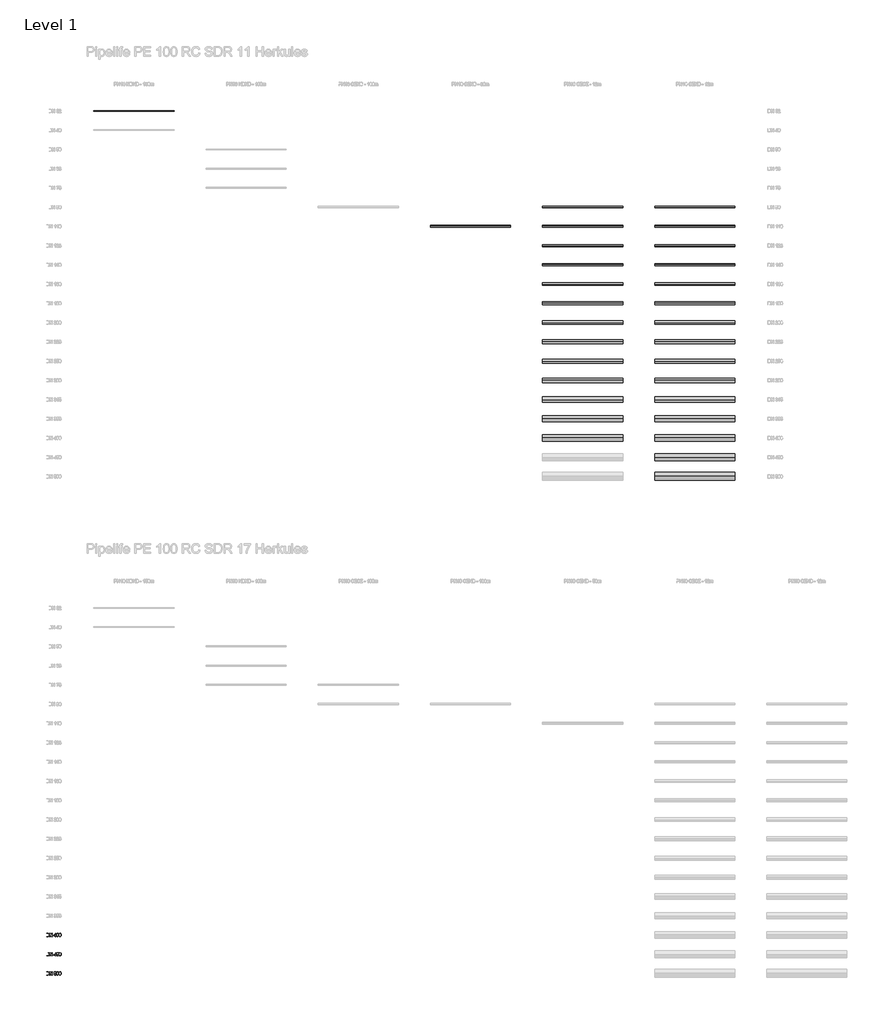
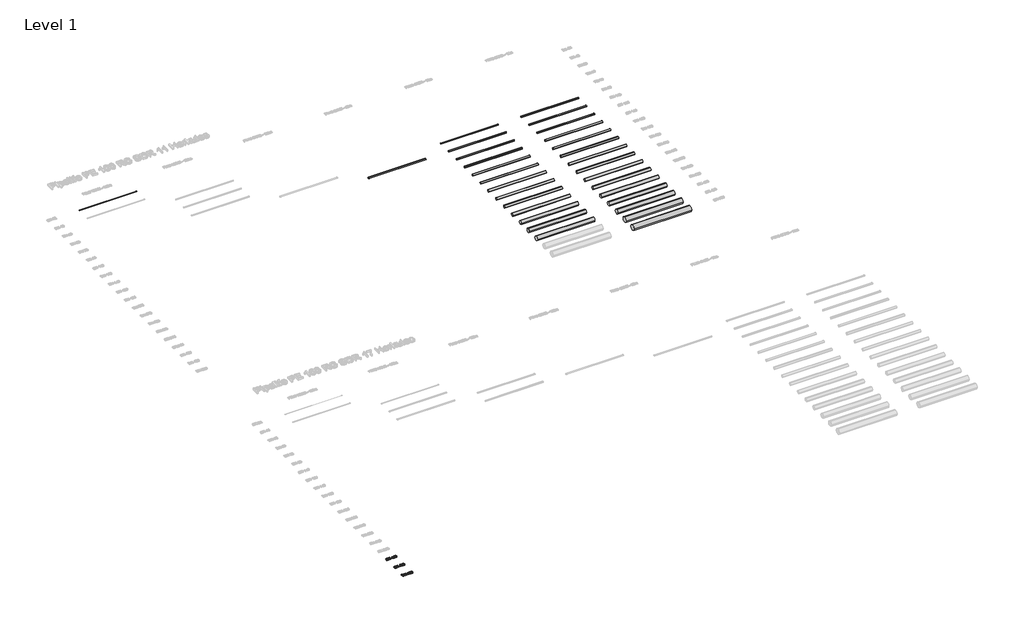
# One storey, part 2 of 17: 30 pipe segments, 3 proxies.
"""IFC4 building model written with IfcOpenShell, lengths in millimetres."""

from ifc_helpers import new_model, si_unit, point, frame, frame_2d, origin, origin_with_axes, place, context, project, spatial, polyline, circle_curve, trimmed, segment, composite_curve, outline, extrude, element, save

model = new_model("IFC4")

# Units and contexts
model_context = context("Model", 3, world=origin())
ifc_project = project(units=[si_unit("LENGTHUNIT", "METRE", prefix="MILLI")], contexts=[model_context])

# Site, building, storey
site = spatial("IfcSite", under=ifc_project)
building = spatial("IfcBuilding", under=site)
storey = spatial("IfcBuildingStorey", under=building, Name="Level 1", Elevation=0.0)

# Proxies
placement = place(None, origin())
element("IfcBuildingElementProxy", 1, Name="200mm Arial", ObjectType="200mm Arial", at=placement, inside=storey, context=model_context, shape_type="SweptSolid", body=[
    extrude(outline(polyline([(-19491.3116028, -50913.949573), (-19491.3116028, -50713.0369527), (-19422.0026349, -50713.0369527), (-19386.1464031, -50715.9309577), (-19370.1312736, -50721.5105013), (-19356.6177416, -50730.302881), (-19342.724065, -50745.606772), (-19332.8280393, -50764.6385338), (-19326.9051392, -50787.0302846), (-19324.9308391, -50812.4141423), (-19330.2773908, -50852.9547382), (-19344.0116519, -50882.2136195), (-19362.3567008, -50900.436041), (-19386.3671323, -50910.5160077), (-19418.6671715, -50913.949573), (-19491.3116028, -50913.949573)]), holes=[polyline([(-19466.1975253, -50888.8354954), (-19421.7573803, -50888.8354954), (-19389.4328156, -50885.2057264), (-19370.7934612, -50874.9540815), (-19362.0685265, -50864.0831685), (-19355.5140957, -50850.0116822), (-19351.4122114, -50832.6783089), (-19350.0449167, -50812.0217348), (-19352.7243239, -50784.6513144), (-19360.7625455, -50764.4423301), (-19372.6390025, -50750.5609162), (-19386.8331162, -50742.1732067), (-19422.4440933, -50738.1510302), (-19466.1975253, -50738.1510302), (-19466.1975253, -50888.8354954)])]), origin_with_axes(), (0.0, 0.0, 1.0), 50.0),
    extrude(outline(polyline([(-19290.3989825, -50913.949573), (-19290.3989825, -50713.0369527), (-19263.5190714, -50713.0369527), (-19158.5500754, -50872.2072292), (-19158.5500754, -50713.0369527), (-19133.4359979, -50713.0369527), (-19133.4359979, -50913.949573), (-19160.315909, -50913.949573), (-19265.284905, -50754.7302454), (-19265.284905, -50913.949573), (-19290.3989825, -50913.949573)])), origin_with_axes(), (0.0, 0.0, 1.0), 50.0),
    extrude(outline(polyline([(-18938.801897, -50913.949573), (-18938.801897, -50866.8606776), (-19029.8404281, -50866.8606776), (-19029.8404281, -50841.7466), (-18932.5233776, -50716.1762123), (-18913.6878195, -50716.1762123), (-18913.6878195, -50841.7466), (-18888.5737419, -50841.7466), (-18888.5737419, -50866.8606776), (-18913.6878195, -50866.8606776), (-18913.6878195, -50913.949573), (-18938.801897, -50913.949573)]), holes=[polyline([(-18938.801897, -50841.7466), (-18938.801897, -50764.1480245), (-18998.9383405, -50841.7466), (-18938.801897, -50841.7466)])]), origin_with_axes(), (0.0, 0.0, 1.0), 50.0),
    extrude(outline(polyline([(-18866.5989241, -50815.1119436), (-18864.7533827, -50782.9529258), (-18859.2167587, -50757.3054194), (-18850.0442343, -50737.7770168), (-18837.2909918, -50723.9753106), (-18820.8650607, -50715.7715422), (-18800.6744705, -50713.0369527), (-18785.1989013, -50714.6556334), (-18771.3420128, -50719.5116758), (-18759.7537299, -50727.4150073), (-18751.0839776, -50738.1755557), (-18739.3117537, -50767.9004209), (-18734.750017, -50815.1119436), (-18736.5771642, -50847.0870203), (-18742.058606, -50872.6732131), (-18751.1759481, -50892.2200098), (-18763.9107965, -50906.0768983), (-18780.3735158, -50914.335849), (-18800.6744705, -50917.0888326), (-18826.7695667, -50912.3063667), (-18846.5861435, -50897.9589689), (-18855.341735, -50882.8298218), (-18861.5957289, -50863.9789353), (-18866.5989241, -50815.1119436)]), holes=[polyline([(-18841.4848465, -50815.0628927), (-18838.5417906, -50854.5672876), (-18829.7126227, -50877.4311536), (-18816.5669727, -50888.3388547), (-18800.6744705, -50891.9747551), (-18784.7819683, -50888.326592), (-18771.6363184, -50877.3821026), (-18762.8071505, -50854.5059739), (-18759.8640945, -50815.0628927), (-18762.7090486, -50776.4475459), (-18771.2439109, -50753.4058703), (-18784.3650354, -50741.9647402), (-18800.9687761, -50738.1510302), (-18816.6896001, -50741.5110191), (-18829.3202152, -50751.5909857), (-18838.4436887, -50776.0674012), (-18841.4848465, -50815.0628927)])]), origin_with_axes(), (0.0, 0.0, 1.0), 50.0),
    extrude(outline(polyline([(-18712.7751992, -50815.1119436), (-18710.9296578, -50782.9529258), (-18705.3930338, -50757.3054194), (-18696.2205094, -50737.7770168), (-18683.4672669, -50723.9753106), (-18667.0413358, -50715.7715422), (-18646.8507456, -50713.0369527), (-18631.3751764, -50714.6556334), (-18617.5182879, -50719.5116758), (-18605.930005, -50727.4150073), (-18597.2602527, -50738.1755557), (-18585.4880288, -50767.9004209), (-18580.9262921, -50815.1119436), (-18582.7534393, -50847.0870203), (-18588.2348811, -50872.6732131), (-18597.3522232, -50892.2200098), (-18610.0870716, -50906.0768983), (-18626.5497909, -50914.335849), (-18646.8507456, -50917.0888326), (-18672.9458418, -50912.3063667), (-18692.7624186, -50897.9589689), (-18701.5180101, -50882.8298218), (-18707.772004, -50863.9789353), (-18712.7751992, -50815.1119436)]), holes=[polyline([(-18687.6611216, -50815.0628927), (-18684.7180657, -50854.5672876), (-18675.8888978, -50877.4311536), (-18662.7432478, -50888.3388547), (-18646.8507456, -50891.9747551), (-18630.9582434, -50888.326592), (-18617.8125935, -50877.3821026), (-18608.9834256, -50854.5059739), (-18606.0403696, -50815.0628927), (-18608.8853237, -50776.4475459), (-18617.420186, -50753.4058703), (-18630.5413105, -50741.9647402), (-18647.1450512, -50738.1510302), (-18662.8658751, -50741.5110191), (-18675.4964903, -50751.5909857), (-18684.6199638, -50776.0674012), (-18687.6611216, -50815.0628927)])]), origin_with_axes(), (0.0, 0.0, 1.0), 50.0),
])
element("IfcBuildingElementProxy", 2, Name="200mm Arial", ObjectType="200mm Arial", at=placement, inside=storey, context=model_context, shape_type="SweptSolid", body=[
    extrude(outline(polyline([(-19491.3116028, -53313.949573), (-19491.3116028, -53113.0369527), (-19422.0026349, -53113.0369527), (-19386.1464031, -53115.9309577), (-19370.1312736, -53121.5105013), (-19356.6177416, -53130.302881), (-19342.724065, -53145.606772), (-19332.8280393, -53164.6385338), (-19326.9051392, -53187.0302846), (-19324.9308391, -53212.4141423), (-19330.2773908, -53252.9547382), (-19344.0116519, -53282.2136195), (-19362.3567008, -53300.436041), (-19386.3671323, -53310.5160077), (-19418.6671715, -53313.949573), (-19491.3116028, -53313.949573)]), holes=[polyline([(-19466.1975253, -53288.8354954), (-19421.7573803, -53288.8354954), (-19389.4328156, -53285.2057264), (-19370.7934612, -53274.9540815), (-19362.0685265, -53264.0831685), (-19355.5140957, -53250.0116822), (-19351.4122114, -53232.6783089), (-19350.0449167, -53212.0217348), (-19352.7243239, -53184.6513144), (-19360.7625455, -53164.4423301), (-19372.6390025, -53150.5609162), (-19386.8331162, -53142.1732067), (-19422.4440933, -53138.1510302), (-19466.1975253, -53138.1510302), (-19466.1975253, -53288.8354954)])]), origin_with_axes(), (0.0, 0.0, 1.0), 50.0),
    extrude(outline(polyline([(-19290.3989825, -53313.949573), (-19290.3989825, -53113.0369527), (-19263.5190714, -53113.0369527), (-19158.5500754, -53272.2072292), (-19158.5500754, -53113.0369527), (-19133.4359979, -53113.0369527), (-19133.4359979, -53313.949573), (-19160.315909, -53313.949573), (-19265.284905, -53154.7302454), (-19265.284905, -53313.949573), (-19290.3989825, -53313.949573)])), origin_with_axes(), (0.0, 0.0, 1.0), 50.0),
    extrude(outline(polyline([(-19020.422649, -53260.5821582), (-18995.3085714, -53257.4428985), (-18990.6977838, -53272.5199289), (-18982.6534308, -53283.3172655), (-18971.2123008, -53289.8103827), (-18956.4111818, -53291.9747551), (-18938.4094895, -53288.9642541), (-18924.920483, -53279.9327511), (-18916.4959853, -53265.9225785), (-18913.6878195, -53247.9760685), (-18916.3181757, -53231.0780222), (-18924.2092445, -53218.1531014), (-18937.4223395, -53209.9493329), (-18956.0187744, -53207.2147434), (-18978.0671686, -53211.5802764), (-18992.1693118, -53222.9110419), (-19017.2833893, -53219.7717822), (-18995.3085714, -53116.1762123), (-18897.991521, -53116.1762123), (-18897.991521, -53141.2902899), (-18975.0014853, -53141.2902899), (-18985.7436396, -53196.619742), (-18967.8032609, -53185.7304349), (-18949.004491, -53182.1006659), (-18925.5397511, -53186.601089), (-18906.0603994, -53200.1023582), (-18892.9454063, -53220.6792244), (-18888.5737419, -53246.4064386), (-18892.5100793, -53271.5205162), (-18904.3190913, -53293.0048247), (-18914.7546772, -53303.5415782), (-18926.9315713, -53311.0678307), (-18940.8497734, -53315.5835821), (-18956.5092837, -53317.0888326), (-18981.1757715, -53313.2199403), (-19000.8268014, -53301.6132634), (-19014.2974138, -53283.6177025), (-19020.422649, -53260.5821582)])), origin_with_axes(), (0.0, 0.0, 1.0), 50.0),
    extrude(outline(polyline([(-18866.5989241, -53215.1119436), (-18864.7533827, -53182.9529258), (-18859.2167587, -53157.3054194), (-18850.0442343, -53137.7770168), (-18837.2909918, -53123.9753106), (-18820.8650607, -53115.7715422), (-18800.6744705, -53113.0369527), (-18785.1989013, -53114.6556334), (-18771.3420128, -53119.5116758), (-18759.7537299, -53127.4150073), (-18751.0839776, -53138.1755557), (-18739.3117537, -53167.9004209), (-18734.750017, -53215.1119436), (-18736.5771642, -53247.0870203), (-18742.058606, -53272.6732131), (-18751.1759481, -53292.2200098), (-18763.9107965, -53306.0768983), (-18780.3735158, -53314.335849), (-18800.6744705, -53317.0888326), (-18826.7695667, -53312.3063667), (-18846.5861435, -53297.9589689), (-18855.341735, -53282.8298218), (-18861.5957289, -53263.9789353), (-18866.5989241, -53215.1119436)]), holes=[polyline([(-18841.4848465, -53215.0628927), (-18838.5417906, -53254.5672876), (-18829.7126227, -53277.4311536), (-18816.5669727, -53288.3388547), (-18800.6744705, -53291.9747551), (-18784.7819683, -53288.326592), (-18771.6363184, -53277.3821026), (-18762.8071505, -53254.5059739), (-18759.8640945, -53215.0628927), (-18762.7090486, -53176.4475459), (-18771.2439109, -53153.4058703), (-18784.3650354, -53141.9647402), (-18800.9687761, -53138.1510302), (-18816.6896001, -53141.5110191), (-18829.3202152, -53151.5909857), (-18838.4436887, -53176.0674012), (-18841.4848465, -53215.0628927)])]), origin_with_axes(), (0.0, 0.0, 1.0), 50.0),
    extrude(outline(polyline([(-18712.7751992, -53215.1119436), (-18710.9296578, -53182.9529258), (-18705.3930338, -53157.3054194), (-18696.2205094, -53137.7770168), (-18683.4672669, -53123.9753106), (-18667.0413358, -53115.7715422), (-18646.8507456, -53113.0369527), (-18631.3751764, -53114.6556334), (-18617.5182879, -53119.5116758), (-18605.930005, -53127.4150073), (-18597.2602527, -53138.1755557), (-18585.4880288, -53167.9004209), (-18580.9262921, -53215.1119436), (-18582.7534393, -53247.0870203), (-18588.2348811, -53272.6732131), (-18597.3522232, -53292.2200098), (-18610.0870716, -53306.0768983), (-18626.5497909, -53314.335849), (-18646.8507456, -53317.0888326), (-18672.9458418, -53312.3063667), (-18692.7624186, -53297.9589689), (-18701.5180101, -53282.8298218), (-18707.772004, -53263.9789353), (-18712.7751992, -53215.1119436)]), holes=[polyline([(-18687.6611216, -53215.0628927), (-18684.7180657, -53254.5672876), (-18675.8888978, -53277.4311536), (-18662.7432478, -53288.3388547), (-18646.8507456, -53291.9747551), (-18630.9582434, -53288.326592), (-18617.8125935, -53277.3821026), (-18608.9834256, -53254.5059739), (-18606.0403696, -53215.0628927), (-18608.8853237, -53176.4475459), (-18617.420186, -53153.4058703), (-18630.5413105, -53141.9647402), (-18647.1450512, -53138.1510302), (-18662.8658751, -53141.5110191), (-18675.4964903, -53151.5909857), (-18684.6199638, -53176.0674012), (-18687.6611216, -53215.0628927)])]), origin_with_axes(), (0.0, 0.0, 1.0), 50.0),
])
element("IfcBuildingElementProxy", 3, Name="200mm Arial", ObjectType="200mm Arial", at=placement, inside=storey, context=model_context, shape_type="SweptSolid", body=[
    extrude(outline(polyline([(-19491.3116028, -52113.949573), (-19491.3116028, -51913.0369527), (-19422.0026349, -51913.0369527), (-19386.1464031, -51915.9309577), (-19370.1312736, -51921.5105013), (-19356.6177416, -51930.302881), (-19342.724065, -51945.606772), (-19332.8280393, -51964.6385338), (-19326.9051392, -51987.0302846), (-19324.9308391, -52012.4141423), (-19330.2773908, -52052.9547382), (-19344.0116519, -52082.2136195), (-19362.3567008, -52100.436041), (-19386.3671323, -52110.5160077), (-19418.6671715, -52113.949573), (-19491.3116028, -52113.949573)]), holes=[polyline([(-19466.1975253, -52088.8354954), (-19421.7573803, -52088.8354954), (-19389.4328156, -52085.2057264), (-19370.7934612, -52074.9540815), (-19362.0685265, -52064.0831685), (-19355.5140957, -52050.0116822), (-19351.4122114, -52032.6783089), (-19350.0449167, -52012.0217348), (-19352.7243239, -51984.6513144), (-19360.7625455, -51964.4423301), (-19372.6390025, -51950.5609162), (-19386.8331162, -51942.1732067), (-19422.4440933, -51938.1510302), (-19466.1975253, -51938.1510302), (-19466.1975253, -52088.8354954)])]), origin_with_axes(), (0.0, 0.0, 1.0), 50.0),
    extrude(outline(polyline([(-19290.3989825, -52113.949573), (-19290.3989825, -51913.0369527), (-19263.5190714, -51913.0369527), (-19158.5500754, -52072.2072292), (-19158.5500754, -51913.0369527), (-19133.4359979, -51913.0369527), (-19133.4359979, -52113.949573), (-19160.315909, -52113.949573), (-19265.284905, -51954.7302454), (-19265.284905, -52113.949573), (-19290.3989825, -52113.949573)])), origin_with_axes(), (0.0, 0.0, 1.0), 50.0),
    extrude(outline(polyline([(-18938.801897, -52113.949573), (-18938.801897, -52066.8606776), (-19029.8404281, -52066.8606776), (-19029.8404281, -52041.7466), (-18932.5233776, -51916.1762123), (-18913.6878195, -51916.1762123), (-18913.6878195, -52041.7466), (-18888.5737419, -52041.7466), (-18888.5737419, -52066.8606776), (-18913.6878195, -52066.8606776), (-18913.6878195, -52113.949573), (-18938.801897, -52113.949573)]), holes=[polyline([(-18938.801897, -52041.7466), (-18938.801897, -51964.1480245), (-18998.9383405, -52041.7466), (-18938.801897, -52041.7466)])]), origin_with_axes(), (0.0, 0.0, 1.0), 50.0),
    extrude(outline(polyline([(-18866.5989241, -52060.5821582), (-18841.4848465, -52057.4428985), (-18836.8740589, -52072.5199289), (-18828.8297059, -52083.3172655), (-18817.3885758, -52089.8103827), (-18802.5874569, -52091.9747551), (-18784.5857646, -52088.9642541), (-18771.0967581, -52079.9327511), (-18762.6722604, -52065.9225785), (-18759.8640945, -52047.9760685), (-18762.4944508, -52031.0780222), (-18770.3855196, -52018.1531014), (-18783.5986146, -52009.9493329), (-18802.1950494, -52007.2147434), (-18824.2434437, -52011.5802764), (-18838.3455868, -52022.9110419), (-18863.4596644, -52019.7717822), (-18841.4848465, -51916.1762123), (-18744.1677961, -51916.1762123), (-18744.1677961, -51941.2902899), (-18821.1777604, -51941.2902899), (-18831.9199147, -51996.619742), (-18813.979536, -51985.7304349), (-18795.1807661, -51982.1006659), (-18771.7160261, -51986.601089), (-18752.2366745, -52000.1023582), (-18739.1216814, -52020.6792244), (-18734.750017, -52046.4064386), (-18738.6863543, -52071.5205162), (-18750.4953664, -52093.0048247), (-18760.9309523, -52103.5415782), (-18773.1078464, -52111.0678307), (-18787.0260485, -52115.5835821), (-18802.6855588, -52117.0888326), (-18827.3520466, -52113.2199403), (-18847.0030765, -52101.6132634), (-18860.4736888, -52083.6177025), (-18866.5989241, -52060.5821582)])), origin_with_axes(), (0.0, 0.0, 1.0), 50.0),
    extrude(outline(polyline([(-18712.7751992, -52015.1119436), (-18710.9296578, -51982.9529258), (-18705.3930338, -51957.3054194), (-18696.2205094, -51937.7770168), (-18683.4672669, -51923.9753106), (-18667.0413358, -51915.7715422), (-18646.8507456, -51913.0369527), (-18631.3751764, -51914.6556334), (-18617.5182879, -51919.5116758), (-18605.930005, -51927.4150073), (-18597.2602527, -51938.1755557), (-18585.4880288, -51967.9004209), (-18580.9262921, -52015.1119436), (-18582.7534393, -52047.0870203), (-18588.2348811, -52072.6732131), (-18597.3522232, -52092.2200098), (-18610.0870716, -52106.0768983), (-18626.5497909, -52114.335849), (-18646.8507456, -52117.0888326), (-18672.9458418, -52112.3063667), (-18692.7624186, -52097.9589689), (-18701.5180101, -52082.8298218), (-18707.772004, -52063.9789353), (-18712.7751992, -52015.1119436)]), holes=[polyline([(-18687.6611216, -52015.0628927), (-18684.7180657, -52054.5672876), (-18675.8888978, -52077.4311536), (-18662.7432478, -52088.3388547), (-18646.8507456, -52091.9747551), (-18630.9582434, -52088.326592), (-18617.8125935, -52077.3821026), (-18608.9834256, -52054.5059739), (-18606.0403696, -52015.0628927), (-18608.8853237, -51976.4475459), (-18617.420186, -51953.4058703), (-18630.5413105, -51941.9647402), (-18647.1450512, -51938.1510302), (-18662.8658751, -51941.5110191), (-18675.4964903, -51951.5909857), (-18684.6199638, -51976.0674012), (-18687.6611216, -52015.0628927)])]), origin_with_axes(), (0.0, 0.0, 1.0), 50.0),
])

# Pipe segments
element("IfcPipeSegment", 4, ObjectType="Pipelife HERKULES, SDR 11 niebiesko/niebieska - 150m", at=placement, inside=storey, context=model_context, shape_type="SweptSolid", body=[
    extrude(outline(composite_curve([segment(trimmed(circle_curve(frame_2d((586.050427, 0.0)), 16.0), [point((570.050427, 0.0))], [point((586.050427, 16.0))], False, "CARTESIAN"), True, "CONTINUOUS"), segment(trimmed(circle_curve(frame_2d((586.050427, 0.0)), 16.0), [point((586.050427, 16.0))], [point((602.050427, 0.0))], False, "CARTESIAN"), True, "CONTINUOUS"), segment(trimmed(circle_curve(frame_2d((586.050427, 0.0)), 16.0), [point((602.050427, 0.0))], [point((586.050427, -16.0))], False, "CARTESIAN"), True, "CONTINUOUS"), segment(trimmed(circle_curve(frame_2d((586.050427, 0.0)), 16.0), [point((586.050427, -16.0))], [point((570.050427, 0.0))], False, "CARTESIAN"), True, "CONTINUOUS")], self_intersect=False)), frame((-16532.6671252, 0.0, 0.0), z_axis=(1.0, 0.0, 0.0), x_axis=(0.0, 1.0, 0.0)), (0.0, 0.0, 1.0), 5000.0),
])
element("IfcPipeSegment", 5, ObjectType="Pipelife HERKULES, SDR 11 czarno/czarna - 12m", at=placement, inside=storey, context=model_context, shape_type="SweptSolid", body=[
    extrude(outline(composite_curve([segment(trimmed(circle_curve(frame_2d((-5413.949573, 0.0)), 45.0), [point((-5458.949573, 0.0))], [point((-5413.949573, 45.0))], False, "CARTESIAN"), True, "CONTINUOUS"), segment(trimmed(circle_curve(frame_2d((-5413.949573, 0.0)), 45.0), [point((-5413.949573, 45.0))], [point((-5368.949573, 0.0))], False, "CARTESIAN"), True, "CONTINUOUS"), segment(trimmed(circle_curve(frame_2d((-5413.949573, 0.0)), 45.0), [point((-5368.949573, 0.0))], [point((-5413.949573, -45.0))], False, "CARTESIAN"), True, "CONTINUOUS"), segment(trimmed(circle_curve(frame_2d((-5413.949573, 0.0)), 45.0), [point((-5413.949573, -45.0))], [point((-5458.949573, 0.0))], False, "CARTESIAN"), True, "CONTINUOUS")], self_intersect=False)), frame((11467.3328748, 0.0, 0.0), z_axis=(1.0, 0.0, 0.0), x_axis=(0.0, 1.0, 0.0)), (0.0, 0.0, 1.0), 5000.0),
])
element("IfcPipeSegment", 6, ObjectType="Pipelife HERKULES, SDR 11 czarno/czarna - 12m", at=placement, inside=storey, context=model_context, shape_type="SweptSolid", body=[
    extrude(outline(composite_curve([segment(trimmed(circle_curve(frame_2d((-6613.949573, 0.0)), 55.0), [point((-6668.949573, 0.0))], [point((-6613.949573, 55.0))], False, "CARTESIAN"), True, "CONTINUOUS"), segment(trimmed(circle_curve(frame_2d((-6613.949573, 0.0)), 55.0), [point((-6613.949573, 55.0))], [point((-6558.949573, 0.0))], False, "CARTESIAN"), True, "CONTINUOUS"), segment(trimmed(circle_curve(frame_2d((-6613.949573, 0.0)), 55.0), [point((-6558.949573, 0.0))], [point((-6613.949573, -55.0))], False, "CARTESIAN"), True, "CONTINUOUS"), segment(trimmed(circle_curve(frame_2d((-6613.949573, 0.0)), 55.0), [point((-6613.949573, -55.0))], [point((-6668.949573, 0.0))], False, "CARTESIAN"), True, "CONTINUOUS")], self_intersect=False)), frame((11467.3328748, 0.0, 0.0), z_axis=(1.0, 0.0, 0.0), x_axis=(0.0, 1.0, 0.0)), (0.0, 0.0, 1.0), 5000.0),
])
element("IfcPipeSegment", 7, ObjectType="Pipelife HERKULES, SDR 11 czarno/czarna - 12m", at=placement, inside=storey, context=model_context, shape_type="SweptSolid", body=[
    extrude(outline(composite_curve([segment(trimmed(circle_curve(frame_2d((-7813.949573, 0.0)), 62.5), [point((-7876.449573, 0.0))], [point((-7813.949573, 62.5))], False, "CARTESIAN"), True, "CONTINUOUS"), segment(trimmed(circle_curve(frame_2d((-7813.949573, 0.0)), 62.5), [point((-7813.949573, 62.5))], [point((-7751.449573, 0.0))], False, "CARTESIAN"), True, "CONTINUOUS"), segment(trimmed(circle_curve(frame_2d((-7813.949573, 0.0)), 62.5), [point((-7751.449573, 0.0))], [point((-7813.949573, -62.5))], False, "CARTESIAN"), True, "CONTINUOUS"), segment(trimmed(circle_curve(frame_2d((-7813.949573, 0.0)), 62.5), [point((-7813.949573, -62.5))], [point((-7876.449573, 0.0))], False, "CARTESIAN"), True, "CONTINUOUS")], self_intersect=False)), frame((11467.3328748, 0.0, 0.0), z_axis=(1.0, 0.0, 0.0), x_axis=(0.0, 1.0, 0.0)), (0.0, 0.0, 1.0), 5000.0),
])
element("IfcPipeSegment", 8, ObjectType="Pipelife HERKULES, SDR 11 czarno/czarna - 12m", at=placement, inside=storey, context=model_context, shape_type="SweptSolid", body=[
    extrude(outline(composite_curve([segment(trimmed(circle_curve(frame_2d((-9013.949573, 0.0)), 70.0), [point((-9083.949573, 0.0))], [point((-9013.949573, 70.0))], False, "CARTESIAN"), True, "CONTINUOUS"), segment(trimmed(circle_curve(frame_2d((-9013.949573, 0.0)), 70.0), [point((-9013.949573, 70.0))], [point((-8943.949573, 0.0))], False, "CARTESIAN"), True, "CONTINUOUS"), segment(trimmed(circle_curve(frame_2d((-9013.949573, 0.0)), 70.0), [point((-8943.949573, 0.0))], [point((-9013.949573, -70.0))], False, "CARTESIAN"), True, "CONTINUOUS"), segment(trimmed(circle_curve(frame_2d((-9013.949573, 0.0)), 70.0), [point((-9013.949573, -70.0))], [point((-9083.949573, 0.0))], False, "CARTESIAN"), True, "CONTINUOUS")], self_intersect=False)), frame((11467.3328748, 0.0, 0.0), z_axis=(1.0, 0.0, 0.0), x_axis=(0.0, 1.0, 0.0)), (0.0, 0.0, 1.0), 5000.0),
])
element("IfcPipeSegment", 9, ObjectType="Pipelife HERKULES, SDR 11 czarno/czarna - 12m", at=placement, inside=storey, context=model_context, shape_type="SweptSolid", body=[
    extrude(outline(composite_curve([segment(trimmed(circle_curve(frame_2d((-10213.949573, 0.0)), 80.0), [point((-10293.949573, 0.0))], [point((-10213.949573, 80.0))], False, "CARTESIAN"), True, "CONTINUOUS"), segment(trimmed(circle_curve(frame_2d((-10213.949573, 0.0)), 80.0), [point((-10213.949573, 80.0))], [point((-10133.949573, 0.0))], False, "CARTESIAN"), True, "CONTINUOUS"), segment(trimmed(circle_curve(frame_2d((-10213.949573, 0.0)), 80.0), [point((-10133.949573, 0.0))], [point((-10213.949573, -80.0))], False, "CARTESIAN"), True, "CONTINUOUS"), segment(trimmed(circle_curve(frame_2d((-10213.949573, 0.0)), 80.0), [point((-10213.949573, -80.0))], [point((-10293.949573, 0.0))], False, "CARTESIAN"), True, "CONTINUOUS")], self_intersect=False)), frame((11467.3328748, 0.0, 0.0), z_axis=(1.0, 0.0, 0.0), x_axis=(0.0, 1.0, 0.0)), (0.0, 0.0, 1.0), 5000.0),
])
element("IfcPipeSegment", 10, ObjectType="Pipelife HERKULES, SDR 11 czarno/czarna - 12m", at=placement, inside=storey, context=model_context, shape_type="SweptSolid", body=[
    extrude(outline(composite_curve([segment(trimmed(circle_curve(frame_2d((-11413.949573, 0.0)), 90.0), [point((-11503.949573, 0.0))], [point((-11413.949573, 90.0))], False, "CARTESIAN"), True, "CONTINUOUS"), segment(trimmed(circle_curve(frame_2d((-11413.949573, 0.0)), 90.0), [point((-11413.949573, 90.0))], [point((-11323.949573, 0.0))], False, "CARTESIAN"), True, "CONTINUOUS"), segment(trimmed(circle_curve(frame_2d((-11413.949573, 0.0)), 90.0), [point((-11323.949573, 0.0))], [point((-11413.949573, -90.0))], False, "CARTESIAN"), True, "CONTINUOUS"), segment(trimmed(circle_curve(frame_2d((-11413.949573, 0.0)), 90.0), [point((-11413.949573, -90.0))], [point((-11503.949573, 0.0))], False, "CARTESIAN"), True, "CONTINUOUS")], self_intersect=False)), frame((11467.3328748, 0.0, 0.0), z_axis=(1.0, 0.0, 0.0), x_axis=(0.0, 1.0, 0.0)), (0.0, 0.0, 1.0), 5000.0),
])
element("IfcPipeSegment", 11, ObjectType="Pipelife HERKULES, SDR 11 czarno/czarna - 12m", at=placement, inside=storey, context=model_context, shape_type="SweptSolid", body=[
    extrude(outline(composite_curve([segment(trimmed(circle_curve(frame_2d((-12613.949573, 0.0)), 100.0), [point((-12713.949573, 0.0))], [point((-12613.949573, 100.0))], False, "CARTESIAN"), True, "CONTINUOUS"), segment(trimmed(circle_curve(frame_2d((-12613.949573, 0.0)), 100.0), [point((-12613.949573, 100.0))], [point((-12513.949573, 0.0))], False, "CARTESIAN"), True, "CONTINUOUS"), segment(trimmed(circle_curve(frame_2d((-12613.949573, 0.0)), 100.0), [point((-12513.949573, 0.0))], [point((-12613.949573, -100.0))], False, "CARTESIAN"), True, "CONTINUOUS"), segment(trimmed(circle_curve(frame_2d((-12613.949573, 0.0)), 100.0), [point((-12613.949573, -100.0))], [point((-12713.949573, 0.0))], False, "CARTESIAN"), True, "CONTINUOUS")], self_intersect=False)), frame((11467.3328748, 0.0, 0.0), z_axis=(1.0, 0.0, 0.0), x_axis=(0.0, 1.0, 0.0)), (0.0, 0.0, 1.0), 5000.0),
])
element("IfcPipeSegment", 12, ObjectType="Pipelife HERKULES, SDR 11 czarno/czarna - 12m", at=placement, inside=storey, context=model_context, shape_type="SweptSolid", body=[
    extrude(outline(composite_curve([segment(trimmed(circle_curve(frame_2d((-13813.949573, 0.0)), 112.5), [point((-13926.449573, 0.0))], [point((-13813.949573, 112.5))], False, "CARTESIAN"), True, "CONTINUOUS"), segment(trimmed(circle_curve(frame_2d((-13813.949573, 0.0)), 112.5), [point((-13813.949573, 112.5))], [point((-13701.449573, 0.0))], False, "CARTESIAN"), True, "CONTINUOUS"), segment(trimmed(circle_curve(frame_2d((-13813.949573, 0.0)), 112.5), [point((-13701.449573, 0.0))], [point((-13813.949573, -112.5))], False, "CARTESIAN"), True, "CONTINUOUS"), segment(trimmed(circle_curve(frame_2d((-13813.949573, 0.0)), 112.5), [point((-13813.949573, -112.5))], [point((-13926.449573, 0.0))], False, "CARTESIAN"), True, "CONTINUOUS")], self_intersect=False)), frame((11467.3328748, 0.0, 0.0), z_axis=(1.0, 0.0, 0.0), x_axis=(0.0, 1.0, 0.0)), (0.0, 0.0, 1.0), 5000.0),
])
element("IfcPipeSegment", 13, ObjectType="Pipelife HERKULES, SDR 11 czarno/czarna - 12m", at=placement, inside=storey, context=model_context, shape_type="SweptSolid", body=[
    extrude(outline(composite_curve([segment(trimmed(circle_curve(frame_2d((-15013.949573, 0.0)), 125.0), [point((-15138.949573, 0.0))], [point((-15013.949573, 125.0))], False, "CARTESIAN"), True, "CONTINUOUS"), segment(trimmed(circle_curve(frame_2d((-15013.949573, 0.0)), 125.0), [point((-15013.949573, 125.0))], [point((-14888.949573, 0.0))], False, "CARTESIAN"), True, "CONTINUOUS"), segment(trimmed(circle_curve(frame_2d((-15013.949573, 0.0)), 125.0), [point((-14888.949573, 0.0))], [point((-15013.949573, -125.0))], False, "CARTESIAN"), True, "CONTINUOUS"), segment(trimmed(circle_curve(frame_2d((-15013.949573, 0.0)), 125.0), [point((-15013.949573, -125.0))], [point((-15138.949573, 0.0))], False, "CARTESIAN"), True, "CONTINUOUS")], self_intersect=False)), frame((11467.3328748, 0.0, 0.0), z_axis=(1.0, 0.0, 0.0), x_axis=(0.0, 1.0, 0.0)), (0.0, 0.0, 1.0), 5000.0),
])
element("IfcPipeSegment", 14, ObjectType="Pipelife HERKULES, SDR 11 czarno/czarna - 12m", at=placement, inside=storey, context=model_context, shape_type="SweptSolid", body=[
    extrude(outline(composite_curve([segment(trimmed(circle_curve(frame_2d((-16213.949573, 0.0)), 140.0), [point((-16353.949573, 0.0))], [point((-16213.949573, 140.0))], False, "CARTESIAN"), True, "CONTINUOUS"), segment(trimmed(circle_curve(frame_2d((-16213.949573, 0.0)), 140.0), [point((-16213.949573, 140.0))], [point((-16073.949573, 0.0))], False, "CARTESIAN"), True, "CONTINUOUS"), segment(trimmed(circle_curve(frame_2d((-16213.949573, 0.0)), 140.0), [point((-16073.949573, 0.0))], [point((-16213.949573, -140.0))], False, "CARTESIAN"), True, "CONTINUOUS"), segment(trimmed(circle_curve(frame_2d((-16213.949573, 0.0)), 140.0), [point((-16213.949573, -140.0))], [point((-16353.949573, 0.0))], False, "CARTESIAN"), True, "CONTINUOUS")], self_intersect=False)), frame((11467.3328748, 0.0, 0.0), z_axis=(1.0, 0.0, 0.0), x_axis=(0.0, 1.0, 0.0)), (0.0, 0.0, 1.0), 5000.0),
])
element("IfcPipeSegment", 15, ObjectType="Pipelife HERKULES, SDR 11 czarno/czarna - 12m", at=placement, inside=storey, context=model_context, shape_type="SweptSolid", body=[
    extrude(outline(composite_curve([segment(trimmed(circle_curve(frame_2d((-17413.949573, 0.0)), 157.5), [point((-17571.449573, 0.0))], [point((-17413.949573, 157.5))], False, "CARTESIAN"), True, "CONTINUOUS"), segment(trimmed(circle_curve(frame_2d((-17413.949573, 0.0)), 157.5), [point((-17413.949573, 157.5))], [point((-17256.449573, 0.0))], False, "CARTESIAN"), True, "CONTINUOUS"), segment(trimmed(circle_curve(frame_2d((-17413.949573, 0.0)), 157.5), [point((-17256.449573, 0.0))], [point((-17413.949573, -157.5))], False, "CARTESIAN"), True, "CONTINUOUS"), segment(trimmed(circle_curve(frame_2d((-17413.949573, 0.0)), 157.5), [point((-17413.949573, -157.5))], [point((-17571.449573, 0.0))], False, "CARTESIAN"), True, "CONTINUOUS")], self_intersect=False)), frame((11467.3328748, 0.0, 0.0), z_axis=(1.0, 0.0, 0.0), x_axis=(0.0, 1.0, 0.0)), (0.0, 0.0, 1.0), 5000.0),
])
element("IfcPipeSegment", 16, ObjectType="Pipelife HERKULES, SDR 11 czarno/czarna - 12m", at=placement, inside=storey, context=model_context, shape_type="SweptSolid", body=[
    extrude(outline(composite_curve([segment(trimmed(circle_curve(frame_2d((-18613.949573, 0.0)), 177.5), [point((-18791.449573, 0.0))], [point((-18613.949573, 177.5))], False, "CARTESIAN"), True, "CONTINUOUS"), segment(trimmed(circle_curve(frame_2d((-18613.949573, 0.0)), 177.5), [point((-18613.949573, 177.5))], [point((-18436.449573, 0.0))], False, "CARTESIAN"), True, "CONTINUOUS"), segment(trimmed(circle_curve(frame_2d((-18613.949573, 0.0)), 177.5), [point((-18436.449573, 0.0))], [point((-18613.949573, -177.5))], False, "CARTESIAN"), True, "CONTINUOUS"), segment(trimmed(circle_curve(frame_2d((-18613.949573, 0.0)), 177.5), [point((-18613.949573, -177.5))], [point((-18791.449573, 0.0))], False, "CARTESIAN"), True, "CONTINUOUS")], self_intersect=False)), frame((11467.3328748, 0.0, 0.0), z_axis=(1.0, 0.0, 0.0), x_axis=(0.0, 1.0, 0.0)), (0.0, 0.0, 1.0), 5000.0),
])
element("IfcPipeSegment", 17, ObjectType="Pipelife HERKULES, SDR 11 czarno/czarna - 12m", at=placement, inside=storey, context=model_context, shape_type="SweptSolid", body=[
    extrude(outline(composite_curve([segment(trimmed(circle_curve(frame_2d((-19813.949573, 0.0)), 200.0), [point((-20013.949573, 0.0))], [point((-19813.949573, 200.0))], False, "CARTESIAN"), True, "CONTINUOUS"), segment(trimmed(circle_curve(frame_2d((-19813.949573, 0.0)), 200.0), [point((-19813.949573, 200.0))], [point((-19613.949573, 0.0))], False, "CARTESIAN"), True, "CONTINUOUS"), segment(trimmed(circle_curve(frame_2d((-19813.949573, 0.0)), 200.0), [point((-19613.949573, 0.0))], [point((-19813.949573, -200.0))], False, "CARTESIAN"), True, "CONTINUOUS"), segment(trimmed(circle_curve(frame_2d((-19813.949573, 0.0)), 200.0), [point((-19813.949573, -200.0))], [point((-20013.949573, 0.0))], False, "CARTESIAN"), True, "CONTINUOUS")], self_intersect=False)), frame((11467.3328748, 0.0, 0.0), z_axis=(1.0, 0.0, 0.0), x_axis=(0.0, 1.0, 0.0)), (0.0, 0.0, 1.0), 5000.0),
])
element("IfcPipeSegment", 18, ObjectType="Pipelife HERKULES, SDR 11 czarno/niebieska - 50m", at=placement, inside=storey, context=model_context, shape_type="SweptSolid", body=[
    extrude(outline(composite_curve([segment(trimmed(circle_curve(frame_2d((-6613.949573, 0.0)), 55.0), [point((-6668.949573, 0.0))], [point((-6613.949573, 55.0))], False, "CARTESIAN"), True, "CONTINUOUS"), segment(trimmed(circle_curve(frame_2d((-6613.949573, 0.0)), 55.0), [point((-6613.949573, 55.0))], [point((-6558.949573, 0.0))], False, "CARTESIAN"), True, "CONTINUOUS"), segment(trimmed(circle_curve(frame_2d((-6613.949573, 0.0)), 55.0), [point((-6558.949573, 0.0))], [point((-6613.949573, -55.0))], False, "CARTESIAN"), True, "CONTINUOUS"), segment(trimmed(circle_curve(frame_2d((-6613.949573, 0.0)), 55.0), [point((-6613.949573, -55.0))], [point((-6668.949573, 0.0))], False, "CARTESIAN"), True, "CONTINUOUS")], self_intersect=False)), frame((4467.3328748, 0.0, 0.0), z_axis=(1.0, 0.0, 0.0), x_axis=(0.0, 1.0, 0.0)), (0.0, 0.0, 1.0), 5000.0),
])
element("IfcPipeSegment", 19, ObjectType="Pipelife HERKULES, SDR 11 czarno/niebieska - 12m", at=placement, inside=storey, context=model_context, shape_type="SweptSolid", body=[
    extrude(outline(composite_curve([segment(trimmed(circle_curve(frame_2d((-6613.949573, 0.0)), 55.0), [point((-6668.949573, 0.0))], [point((-6613.949573, 55.0))], False, "CARTESIAN"), True, "CONTINUOUS"), segment(trimmed(circle_curve(frame_2d((-6613.949573, 0.0)), 55.0), [point((-6613.949573, 55.0))], [point((-6558.949573, 0.0))], False, "CARTESIAN"), True, "CONTINUOUS"), segment(trimmed(circle_curve(frame_2d((-6613.949573, 0.0)), 55.0), [point((-6558.949573, 0.0))], [point((-6613.949573, -55.0))], False, "CARTESIAN"), True, "CONTINUOUS"), segment(trimmed(circle_curve(frame_2d((-6613.949573, 0.0)), 55.0), [point((-6613.949573, -55.0))], [point((-6668.949573, 0.0))], False, "CARTESIAN"), True, "CONTINUOUS")], self_intersect=False)), frame((18467.3328748, 0.0, 0.0), z_axis=(1.0, 0.0, 0.0), x_axis=(0.0, 1.0, 0.0)), (0.0, 0.0, 1.0), 5000.0),
])
element("IfcPipeSegment", 20, ObjectType="Pipelife HERKULES, SDR 11 czarno/niebieska - 12m", at=placement, inside=storey, context=model_context, shape_type="SweptSolid", body=[
    extrude(outline(composite_curve([segment(trimmed(circle_curve(frame_2d((-5413.949573, 0.0)), 45.0), [point((-5458.949573, 0.0))], [point((-5413.949573, 45.0))], False, "CARTESIAN"), True, "CONTINUOUS"), segment(trimmed(circle_curve(frame_2d((-5413.949573, 0.0)), 45.0), [point((-5413.949573, 45.0))], [point((-5368.949573, 0.0))], False, "CARTESIAN"), True, "CONTINUOUS"), segment(trimmed(circle_curve(frame_2d((-5413.949573, 0.0)), 45.0), [point((-5368.949573, 0.0))], [point((-5413.949573, -45.0))], False, "CARTESIAN"), True, "CONTINUOUS"), segment(trimmed(circle_curve(frame_2d((-5413.949573, 0.0)), 45.0), [point((-5413.949573, -45.0))], [point((-5458.949573, 0.0))], False, "CARTESIAN"), True, "CONTINUOUS")], self_intersect=False)), frame((18467.3328748, 0.0, 0.0), z_axis=(1.0, 0.0, 0.0), x_axis=(0.0, 1.0, 0.0)), (0.0, 0.0, 1.0), 5000.0),
])
element("IfcPipeSegment", 21, ObjectType="Pipelife HERKULES, SDR 11 czarno/niebieska - 12m", at=placement, inside=storey, context=model_context, shape_type="SweptSolid", body=[
    extrude(outline(composite_curve([segment(trimmed(circle_curve(frame_2d((-7813.949573, 0.0)), 62.5), [point((-7876.449573, 0.0))], [point((-7813.949573, 62.5))], False, "CARTESIAN"), True, "CONTINUOUS"), segment(trimmed(circle_curve(frame_2d((-7813.949573, 0.0)), 62.5), [point((-7813.949573, 62.5))], [point((-7751.449573, 0.0))], False, "CARTESIAN"), True, "CONTINUOUS"), segment(trimmed(circle_curve(frame_2d((-7813.949573, 0.0)), 62.5), [point((-7751.449573, 0.0))], [point((-7813.949573, -62.5))], False, "CARTESIAN"), True, "CONTINUOUS"), segment(trimmed(circle_curve(frame_2d((-7813.949573, 0.0)), 62.5), [point((-7813.949573, -62.5))], [point((-7876.449573, 0.0))], False, "CARTESIAN"), True, "CONTINUOUS")], self_intersect=False)), frame((18467.3328748, 0.0, 0.0), z_axis=(1.0, 0.0, 0.0), x_axis=(0.0, 1.0, 0.0)), (0.0, 0.0, 1.0), 5000.0),
])
element("IfcPipeSegment", 22, ObjectType="Pipelife HERKULES, SDR 11 czarno/niebieska - 12m", at=placement, inside=storey, context=model_context, shape_type="SweptSolid", body=[
    extrude(outline(composite_curve([segment(trimmed(circle_curve(frame_2d((-9013.949573, 0.0)), 70.0), [point((-9083.949573, 0.0))], [point((-9013.949573, 70.0))], False, "CARTESIAN"), True, "CONTINUOUS"), segment(trimmed(circle_curve(frame_2d((-9013.949573, 0.0)), 70.0), [point((-9013.949573, 70.0))], [point((-8943.949573, 0.0))], False, "CARTESIAN"), True, "CONTINUOUS"), segment(trimmed(circle_curve(frame_2d((-9013.949573, 0.0)), 70.0), [point((-8943.949573, 0.0))], [point((-9013.949573, -70.0))], False, "CARTESIAN"), True, "CONTINUOUS"), segment(trimmed(circle_curve(frame_2d((-9013.949573, 0.0)), 70.0), [point((-9013.949573, -70.0))], [point((-9083.949573, 0.0))], False, "CARTESIAN"), True, "CONTINUOUS")], self_intersect=False)), frame((18467.3328748, 0.0, 0.0), z_axis=(1.0, 0.0, 0.0), x_axis=(0.0, 1.0, 0.0)), (0.0, 0.0, 1.0), 5000.0),
])
element("IfcPipeSegment", 23, ObjectType="Pipelife HERKULES, SDR 11 czarno/niebieska - 12m", at=placement, inside=storey, context=model_context, shape_type="SweptSolid", body=[
    extrude(outline(composite_curve([segment(trimmed(circle_curve(frame_2d((-10213.949573, 0.0)), 80.0), [point((-10293.949573, 0.0))], [point((-10213.949573, 80.0))], False, "CARTESIAN"), True, "CONTINUOUS"), segment(trimmed(circle_curve(frame_2d((-10213.949573, 0.0)), 80.0), [point((-10213.949573, 80.0))], [point((-10133.949573, 0.0))], False, "CARTESIAN"), True, "CONTINUOUS"), segment(trimmed(circle_curve(frame_2d((-10213.949573, 0.0)), 80.0), [point((-10133.949573, 0.0))], [point((-10213.949573, -80.0))], False, "CARTESIAN"), True, "CONTINUOUS"), segment(trimmed(circle_curve(frame_2d((-10213.949573, 0.0)), 80.0), [point((-10213.949573, -80.0))], [point((-10293.949573, 0.0))], False, "CARTESIAN"), True, "CONTINUOUS")], self_intersect=False)), frame((18467.3328748, 0.0, 0.0), z_axis=(1.0, 0.0, 0.0), x_axis=(0.0, 1.0, 0.0)), (0.0, 0.0, 1.0), 5000.0),
])
element("IfcPipeSegment", 24, ObjectType="Pipelife HERKULES, SDR 11 czarno/niebieska - 12m", at=placement, inside=storey, context=model_context, shape_type="SweptSolid", body=[
    extrude(outline(composite_curve([segment(trimmed(circle_curve(frame_2d((-11413.949573, 0.0)), 90.0), [point((-11503.949573, 0.0))], [point((-11413.949573, 90.0))], False, "CARTESIAN"), True, "CONTINUOUS"), segment(trimmed(circle_curve(frame_2d((-11413.949573, 0.0)), 90.0), [point((-11413.949573, 90.0))], [point((-11323.949573, 0.0))], False, "CARTESIAN"), True, "CONTINUOUS"), segment(trimmed(circle_curve(frame_2d((-11413.949573, 0.0)), 90.0), [point((-11323.949573, 0.0))], [point((-11413.949573, -90.0))], False, "CARTESIAN"), True, "CONTINUOUS"), segment(trimmed(circle_curve(frame_2d((-11413.949573, 0.0)), 90.0), [point((-11413.949573, -90.0))], [point((-11503.949573, 0.0))], False, "CARTESIAN"), True, "CONTINUOUS")], self_intersect=False)), frame((18467.3328748, 0.0, 0.0), z_axis=(1.0, 0.0, 0.0), x_axis=(0.0, 1.0, 0.0)), (0.0, 0.0, 1.0), 5000.0),
])
element("IfcPipeSegment", 25, ObjectType="Pipelife HERKULES, SDR 11 czarno/niebieska - 12m", at=placement, inside=storey, context=model_context, shape_type="SweptSolid", body=[
    extrude(outline(composite_curve([segment(trimmed(circle_curve(frame_2d((-12613.949573, 0.0)), 100.0), [point((-12713.949573, 0.0))], [point((-12613.949573, 100.0))], False, "CARTESIAN"), True, "CONTINUOUS"), segment(trimmed(circle_curve(frame_2d((-12613.949573, 0.0)), 100.0), [point((-12613.949573, 100.0))], [point((-12513.949573, 0.0))], False, "CARTESIAN"), True, "CONTINUOUS"), segment(trimmed(circle_curve(frame_2d((-12613.949573, 0.0)), 100.0), [point((-12513.949573, 0.0))], [point((-12613.949573, -100.0))], False, "CARTESIAN"), True, "CONTINUOUS"), segment(trimmed(circle_curve(frame_2d((-12613.949573, 0.0)), 100.0), [point((-12613.949573, -100.0))], [point((-12713.949573, 0.0))], False, "CARTESIAN"), True, "CONTINUOUS")], self_intersect=False)), frame((18467.3328748, 0.0, 0.0), z_axis=(1.0, 0.0, 0.0), x_axis=(0.0, 1.0, 0.0)), (0.0, 0.0, 1.0), 5000.0),
])
element("IfcPipeSegment", 26, ObjectType="Pipelife HERKULES, SDR 11 czarno/niebieska - 12m", at=placement, inside=storey, context=model_context, shape_type="SweptSolid", body=[
    extrude(outline(composite_curve([segment(trimmed(circle_curve(frame_2d((-13813.949573, 0.0)), 112.5), [point((-13926.449573, 0.0))], [point((-13813.949573, 112.5))], False, "CARTESIAN"), True, "CONTINUOUS"), segment(trimmed(circle_curve(frame_2d((-13813.949573, 0.0)), 112.5), [point((-13813.949573, 112.5))], [point((-13701.449573, 0.0))], False, "CARTESIAN"), True, "CONTINUOUS"), segment(trimmed(circle_curve(frame_2d((-13813.949573, 0.0)), 112.5), [point((-13701.449573, 0.0))], [point((-13813.949573, -112.5))], False, "CARTESIAN"), True, "CONTINUOUS"), segment(trimmed(circle_curve(frame_2d((-13813.949573, 0.0)), 112.5), [point((-13813.949573, -112.5))], [point((-13926.449573, 0.0))], False, "CARTESIAN"), True, "CONTINUOUS")], self_intersect=False)), frame((18467.3328748, 0.0, 0.0), z_axis=(1.0, 0.0, 0.0), x_axis=(0.0, 1.0, 0.0)), (0.0, 0.0, 1.0), 5000.0),
])
element("IfcPipeSegment", 27, ObjectType="Pipelife HERKULES, SDR 11 czarno/niebieska - 12m", at=placement, inside=storey, context=model_context, shape_type="SweptSolid", body=[
    extrude(outline(composite_curve([segment(trimmed(circle_curve(frame_2d((-15013.949573, 0.0)), 125.0), [point((-15138.949573, 0.0))], [point((-15013.949573, 125.0))], False, "CARTESIAN"), True, "CONTINUOUS"), segment(trimmed(circle_curve(frame_2d((-15013.949573, 0.0)), 125.0), [point((-15013.949573, 125.0))], [point((-14888.949573, 0.0))], False, "CARTESIAN"), True, "CONTINUOUS"), segment(trimmed(circle_curve(frame_2d((-15013.949573, 0.0)), 125.0), [point((-14888.949573, 0.0))], [point((-15013.949573, -125.0))], False, "CARTESIAN"), True, "CONTINUOUS"), segment(trimmed(circle_curve(frame_2d((-15013.949573, 0.0)), 125.0), [point((-15013.949573, -125.0))], [point((-15138.949573, 0.0))], False, "CARTESIAN"), True, "CONTINUOUS")], self_intersect=False)), frame((18467.3328748, 0.0, 0.0), z_axis=(1.0, 0.0, 0.0), x_axis=(0.0, 1.0, 0.0)), (0.0, 0.0, 1.0), 5000.0),
])
element("IfcPipeSegment", 28, ObjectType="Pipelife HERKULES, SDR 11 czarno/niebieska - 12m", at=placement, inside=storey, context=model_context, shape_type="SweptSolid", body=[
    extrude(outline(composite_curve([segment(trimmed(circle_curve(frame_2d((-16213.949573, 0.0)), 140.0), [point((-16353.949573, 0.0))], [point((-16213.949573, 140.0))], False, "CARTESIAN"), True, "CONTINUOUS"), segment(trimmed(circle_curve(frame_2d((-16213.949573, 0.0)), 140.0), [point((-16213.949573, 140.0))], [point((-16073.949573, 0.0))], False, "CARTESIAN"), True, "CONTINUOUS"), segment(trimmed(circle_curve(frame_2d((-16213.949573, 0.0)), 140.0), [point((-16073.949573, 0.0))], [point((-16213.949573, -140.0))], False, "CARTESIAN"), True, "CONTINUOUS"), segment(trimmed(circle_curve(frame_2d((-16213.949573, 0.0)), 140.0), [point((-16213.949573, -140.0))], [point((-16353.949573, 0.0))], False, "CARTESIAN"), True, "CONTINUOUS")], self_intersect=False)), frame((18467.3328748, 0.0, 0.0), z_axis=(1.0, 0.0, 0.0), x_axis=(0.0, 1.0, 0.0)), (0.0, 0.0, 1.0), 5000.0),
])
element("IfcPipeSegment", 29, ObjectType="Pipelife HERKULES, SDR 11 czarno/niebieska - 12m", at=placement, inside=storey, context=model_context, shape_type="SweptSolid", body=[
    extrude(outline(composite_curve([segment(trimmed(circle_curve(frame_2d((-17413.949573, 0.0)), 157.5), [point((-17571.449573, 0.0))], [point((-17413.949573, 157.5))], False, "CARTESIAN"), True, "CONTINUOUS"), segment(trimmed(circle_curve(frame_2d((-17413.949573, 0.0)), 157.5), [point((-17413.949573, 157.5))], [point((-17256.449573, 0.0))], False, "CARTESIAN"), True, "CONTINUOUS"), segment(trimmed(circle_curve(frame_2d((-17413.949573, 0.0)), 157.5), [point((-17256.449573, 0.0))], [point((-17413.949573, -157.5))], False, "CARTESIAN"), True, "CONTINUOUS"), segment(trimmed(circle_curve(frame_2d((-17413.949573, 0.0)), 157.5), [point((-17413.949573, -157.5))], [point((-17571.449573, 0.0))], False, "CARTESIAN"), True, "CONTINUOUS")], self_intersect=False)), frame((18467.3328748, 0.0, 0.0), z_axis=(1.0, 0.0, 0.0), x_axis=(0.0, 1.0, 0.0)), (0.0, 0.0, 1.0), 5000.0),
])
element("IfcPipeSegment", 30, ObjectType="Pipelife HERKULES, SDR 11 czarno/niebieska - 12m", at=placement, inside=storey, context=model_context, shape_type="SweptSolid", body=[
    extrude(outline(composite_curve([segment(trimmed(circle_curve(frame_2d((-18613.949573, 0.0)), 177.5), [point((-18791.449573, 0.0))], [point((-18613.949573, 177.5))], False, "CARTESIAN"), True, "CONTINUOUS"), segment(trimmed(circle_curve(frame_2d((-18613.949573, 0.0)), 177.5), [point((-18613.949573, 177.5))], [point((-18436.449573, 0.0))], False, "CARTESIAN"), True, "CONTINUOUS"), segment(trimmed(circle_curve(frame_2d((-18613.949573, 0.0)), 177.5), [point((-18436.449573, 0.0))], [point((-18613.949573, -177.5))], False, "CARTESIAN"), True, "CONTINUOUS"), segment(trimmed(circle_curve(frame_2d((-18613.949573, 0.0)), 177.5), [point((-18613.949573, -177.5))], [point((-18791.449573, 0.0))], False, "CARTESIAN"), True, "CONTINUOUS")], self_intersect=False)), frame((18467.3328748, 0.0, 0.0), z_axis=(1.0, 0.0, 0.0), x_axis=(0.0, 1.0, 0.0)), (0.0, 0.0, 1.0), 5000.0),
])
element("IfcPipeSegment", 31, ObjectType="Pipelife HERKULES, SDR 11 czarno/niebieska - 12m", at=placement, inside=storey, context=model_context, shape_type="SweptSolid", body=[
    extrude(outline(composite_curve([segment(trimmed(circle_curve(frame_2d((-19813.949573, 0.0)), 200.0), [point((-20013.949573, 0.0))], [point((-19813.949573, 200.0))], False, "CARTESIAN"), True, "CONTINUOUS"), segment(trimmed(circle_curve(frame_2d((-19813.949573, 0.0)), 200.0), [point((-19813.949573, 200.0))], [point((-19613.949573, 0.0))], False, "CARTESIAN"), True, "CONTINUOUS"), segment(trimmed(circle_curve(frame_2d((-19813.949573, 0.0)), 200.0), [point((-19613.949573, 0.0))], [point((-19813.949573, -200.0))], False, "CARTESIAN"), True, "CONTINUOUS"), segment(trimmed(circle_curve(frame_2d((-19813.949573, 0.0)), 200.0), [point((-19813.949573, -200.0))], [point((-20013.949573, 0.0))], False, "CARTESIAN"), True, "CONTINUOUS")], self_intersect=False)), frame((18467.3328748, 0.0, 0.0), z_axis=(1.0, 0.0, 0.0), x_axis=(0.0, 1.0, 0.0)), (0.0, 0.0, 1.0), 5000.0),
])
element("IfcPipeSegment", 32, ObjectType="Pipelife HERKULES, SDR 11 czarno/niebieska - 12m", at=placement, inside=storey, context=model_context, shape_type="SweptSolid", body=[
    extrude(outline(composite_curve([segment(trimmed(circle_curve(frame_2d((-21013.949573, 0.0)), 225.0), [point((-21238.949573, 0.0))], [point((-21013.949573, 225.0))], False, "CARTESIAN"), True, "CONTINUOUS"), segment(trimmed(circle_curve(frame_2d((-21013.949573, 0.0)), 225.0), [point((-21013.949573, 225.0))], [point((-20788.949573, 0.0))], False, "CARTESIAN"), True, "CONTINUOUS"), segment(trimmed(circle_curve(frame_2d((-21013.949573, 0.0)), 225.0), [point((-20788.949573, 0.0))], [point((-21013.949573, -225.0))], False, "CARTESIAN"), True, "CONTINUOUS"), segment(trimmed(circle_curve(frame_2d((-21013.949573, 0.0)), 225.0), [point((-21013.949573, -225.0))], [point((-21238.949573, 0.0))], False, "CARTESIAN"), True, "CONTINUOUS")], self_intersect=False)), frame((18467.3328748, 0.0, 0.0), z_axis=(1.0, 0.0, 0.0), x_axis=(0.0, 1.0, 0.0)), (0.0, 0.0, 1.0), 5000.0),
])
element("IfcPipeSegment", 33, ObjectType="Pipelife HERKULES, SDR 11 czarno/niebieska - 12m", at=placement, inside=storey, context=model_context, shape_type="SweptSolid", body=[
    extrude(outline(composite_curve([segment(trimmed(circle_curve(frame_2d((-22213.949573, 0.0)), 250.0), [point((-22463.949573, 0.0))], [point((-22213.949573, 250.0))], False, "CARTESIAN"), True, "CONTINUOUS"), segment(trimmed(circle_curve(frame_2d((-22213.949573, 0.0)), 250.0), [point((-22213.949573, 250.0))], [point((-21963.949573, 0.0))], False, "CARTESIAN"), True, "CONTINUOUS"), segment(trimmed(circle_curve(frame_2d((-22213.949573, 0.0)), 250.0), [point((-21963.949573, 0.0))], [point((-22213.949573, -250.0))], False, "CARTESIAN"), True, "CONTINUOUS"), segment(trimmed(circle_curve(frame_2d((-22213.949573, 0.0)), 250.0), [point((-22213.949573, -250.0))], [point((-22463.949573, 0.0))], False, "CARTESIAN"), True, "CONTINUOUS")], self_intersect=False)), frame((18467.3328748, 0.0, 0.0), z_axis=(1.0, 0.0, 0.0), x_axis=(0.0, 1.0, 0.0)), (0.0, 0.0, 1.0), 5000.0),
])

save(model, "model.ifc")
